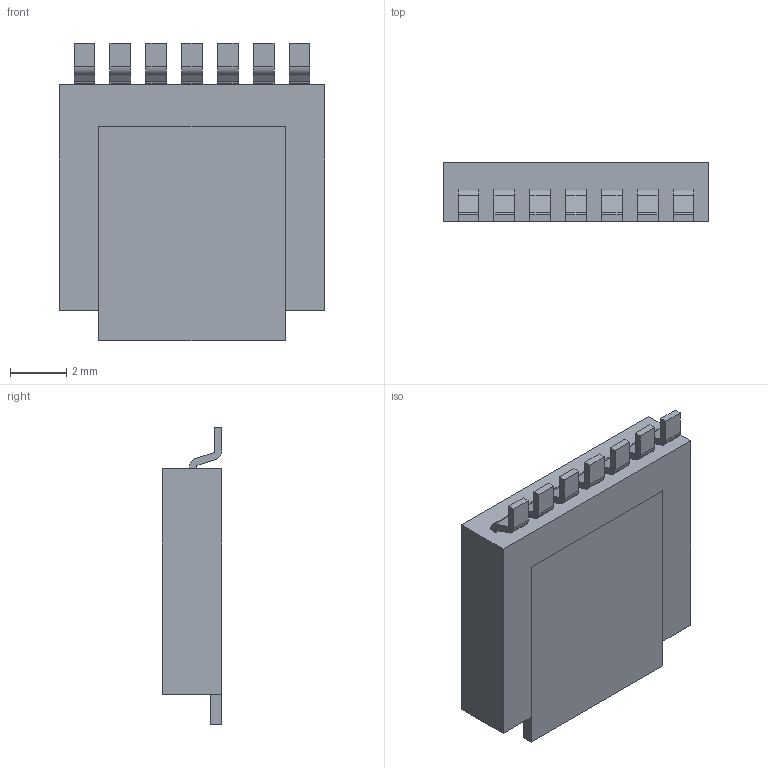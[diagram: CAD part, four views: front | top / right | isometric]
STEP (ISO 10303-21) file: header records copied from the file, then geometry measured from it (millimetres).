
FILE_DESCRIPTION (( 'STEP AP214' ), '1' );
FILE_NAME ( 'DPAK8P127_1054X210L83X73T759X660.STEP', '2021-10-06T06:49:13', ( '' ), ( '' ), '', '©2017 PCB Libraries, Inc.', '' );
FILE_SCHEMA (( 'AUTOMOTIVE_DESIGN' ));
Length unit declared in the file: millimetre
Products named in the file (1): DPAK8P127_1054X210L83X73T759X660
Bounding box: 9.39 x 2.1 x 10.54 mm (x, y, z)
Volume: 163.2 mm3; surface area: 370.8 mm2
Topology: 9 solids, 9 shells, 117 faces, 294 edges, 196 vertices
Faces by surface type: plane 87, cylinder 30
Entity records: 3942 total; most frequent: CARTESIAN_POINT 608, DIRECTION 590, ORIENTED_EDGE 588, EDGE_CURVE 294, VECTOR 234, LINE 234, VERTEX_POINT 196, AXIS2_PLACEMENT_3D 178
